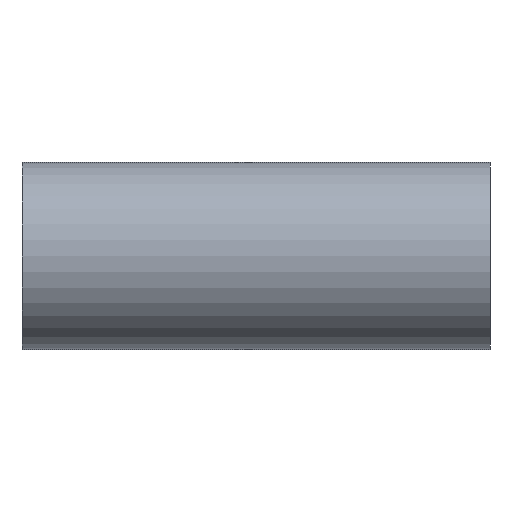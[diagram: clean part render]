
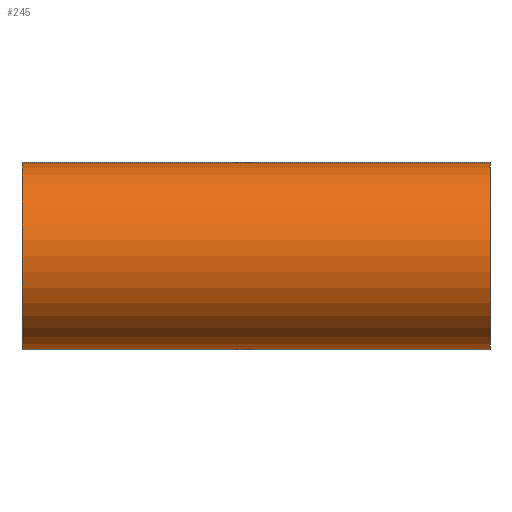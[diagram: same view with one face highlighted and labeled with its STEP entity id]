
A CAD part, front view. The second image highlights one B-rep face of the part: STEP entity #245.
In plain terms, the highlighted cylindrical face has radius 31.75 mm (diameter 63.5 mm), a partial arc.
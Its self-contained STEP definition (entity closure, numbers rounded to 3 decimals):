
#79 = CARTESIAN_POINT ( 'NONE',  ( -79.4, 0., -31.75 ) ) ;
#100 = ORIENTED_EDGE ( 'NONE', *, *, #387, .T. ) ;
#130 = CIRCLE ( 'NONE', #840, 31.75 ) ;
#202 = CARTESIAN_POINT ( 'NONE',  ( 79.4, 0., -31.75 ) ) ;
#245 = ADVANCED_FACE ( 'NONE', ( #1056 ), #507, .T. ) ;
#270 = ORIENTED_EDGE ( 'NONE', *, *, #1230, .F. ) ;
#294 = CARTESIAN_POINT ( 'NONE',  ( -79.4, 0., 0. ) ) ;
#307 = VERTEX_POINT ( 'NONE', #202 ) ;
#311 = DIRECTION ( 'NONE',  ( 0., 0., -1. ) ) ;
#356 = VECTOR ( 'NONE', #963, 1000. ) ;
#387 = EDGE_CURVE ( 'NONE', #812, #574, #130, .T. ) ;
#391 = DIRECTION ( 'NONE',  ( 0., 0., -1. ) ) ;
#409 = DIRECTION ( 'NONE',  ( -1., 0., 0. ) ) ;
#420 = DIRECTION ( 'NONE',  ( 1., 0., 0. ) ) ;
#435 = DIRECTION ( 'NONE',  ( 0., 0., -1. ) ) ;
#467 = CARTESIAN_POINT ( 'NONE',  ( 79.4, 0., 0. ) ) ;
#497 = CIRCLE ( 'NONE', #540, 31.75 ) ;
#507 = CYLINDRICAL_SURFACE ( 'NONE', #1265, 31.75 ) ;
#524 = EDGE_CURVE ( 'NONE', #307, #674, #497, .T. ) ;
#532 = DIRECTION ( 'NONE',  ( 1., 0., 0. ) ) ;
#540 = AXIS2_PLACEMENT_3D ( 'NONE', #467, #409, #391 ) ;
#574 = VERTEX_POINT ( 'NONE', #79 ) ;
#657 = ORIENTED_EDGE ( 'NONE', *, *, #524, .T. ) ;
#662 = LINE ( 'NONE', #1234, #679 ) ;
#674 = VERTEX_POINT ( 'NONE', #1183 ) ;
#679 = VECTOR ( 'NONE', #848, 1000. ) ;
#739 = EDGE_CURVE ( 'NONE', #574, #307, #1205, .T. ) ;
#748 = CARTESIAN_POINT ( 'NONE',  ( -79.4, 0., 31.75 ) ) ;
#812 = VERTEX_POINT ( 'NONE', #748 ) ;
#840 = AXIS2_PLACEMENT_3D ( 'NONE', #1235, #532, #311 ) ;
#848 = DIRECTION ( 'NONE',  ( 1., 0., 0. ) ) ;
#907 = ORIENTED_EDGE ( 'NONE', *, *, #739, .T. ) ;
#963 = DIRECTION ( 'NONE',  ( 1., 0., 0. ) ) ;
#1044 = CARTESIAN_POINT ( 'NONE',  ( -79.4, 0., -31.75 ) ) ;
#1053 = EDGE_LOOP ( 'NONE', ( #270, #100, #907, #657 ) ) ;
#1056 = FACE_OUTER_BOUND ( 'NONE', #1053, .T. ) ;
#1183 = CARTESIAN_POINT ( 'NONE',  ( 79.4, 0., 31.75 ) ) ;
#1205 = LINE ( 'NONE', #1044, #356 ) ;
#1230 = EDGE_CURVE ( 'NONE', #812, #674, #662, .T. ) ;
#1234 = CARTESIAN_POINT ( 'NONE',  ( -79.4, 0., 31.75 ) ) ;
#1235 = CARTESIAN_POINT ( 'NONE',  ( -79.4, 0., 0. ) ) ;
#1265 = AXIS2_PLACEMENT_3D ( 'NONE', #294, #420, #435 ) ;
